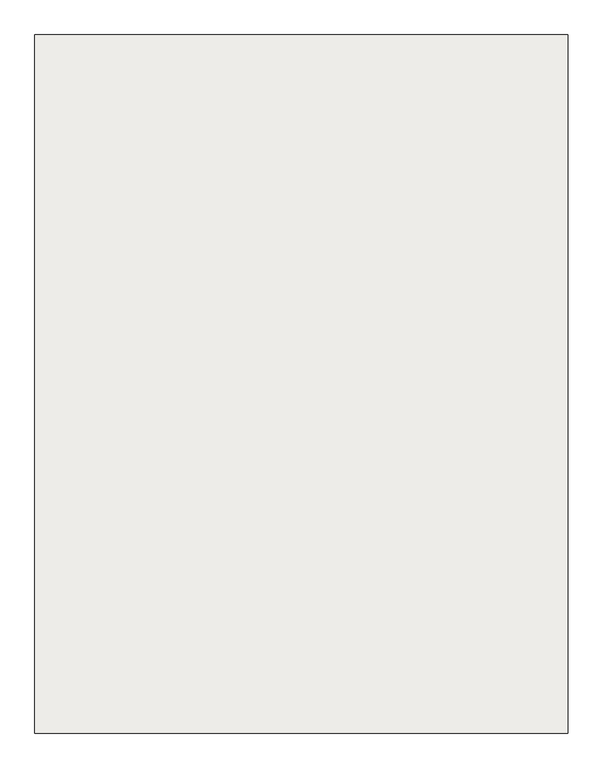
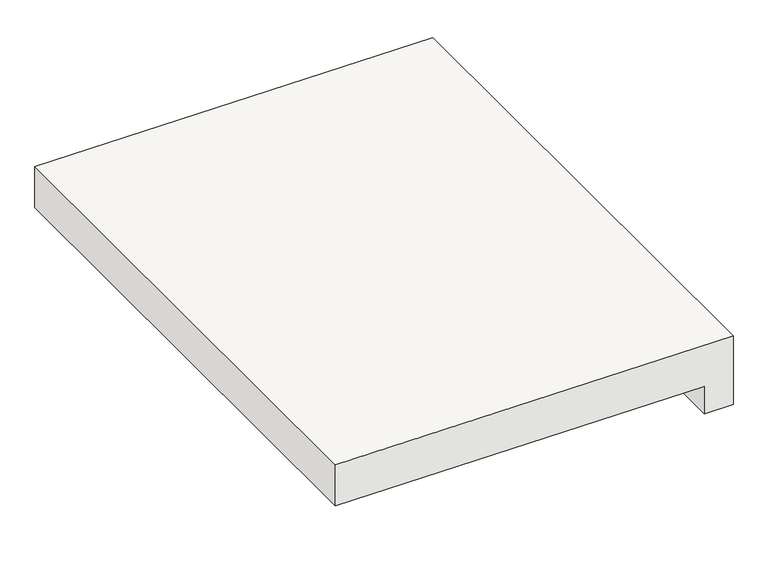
"""IFC4 building model written with IfcOpenShell, lengths in millimetres: slab geometry, Radier Aval : Radier Aval."""

from ifc_helpers import new_model, si_unit, frame, origin, place, context, project, spatial, polyline, outline, extrude, source, transform, mapped, element, save


def slab_914b3484(model_context):
    return source(origin(), model_context, "Body", "SweptSolid", [
        extrude(outline(polyline([(153605.8454785, 26880.0), (153305.8454785, 26880.0), (153286.143986, 29430.0), (153084.5987709, 29430.0), (153084.5987709, 29630.0), (153584.5987709, 29630.0), (153605.8454785, 26880.0)])), frame((0.0, -1800.0, 0.0), z_axis=(0.0, 1.0, 0.0), x_axis=(0.0, 0.0, 1.0)), (0.0, 0.0, 1.0), 3600.0),
    ])


if __name__ == "__main__":
    model = new_model("IFC4")
    model_context = context("Model", 3, world=origin())
    ifc_project = project(units=[si_unit("LENGTHUNIT", "METRE", prefix="MILLI")], contexts=[model_context])
    site = spatial("IfcSite", under=ifc_project)
    building = spatial("IfcBuilding", under=site)
    placement = place(None, origin())
    slab_shape = slab_914b3484(model_context)
    element("IfcSlab", 1, ObjectType="Radier Aval : Radier Aval", at=placement, inside=building, context=model_context, shape_type="MappedRepresentation", body=[
        mapped(slab_shape, transform((0.0, 0.0, 0.0), x_axis=(1.0, 0.0, 0.0), y_axis=(0.0, 1.0, 0.0), z_axis=(0.0, 0.0, 1.0))),
    ])
    save(model, "model.ifc")
